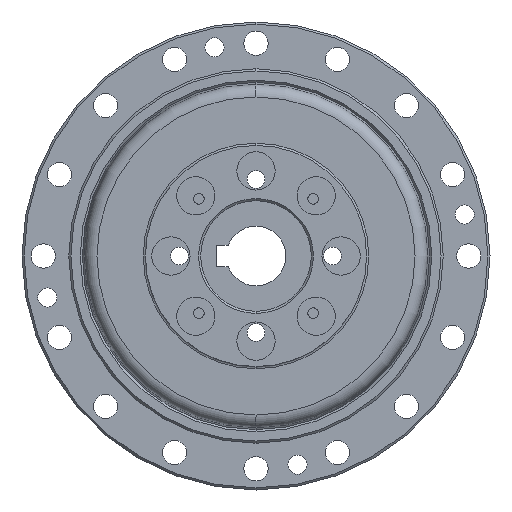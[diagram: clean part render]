
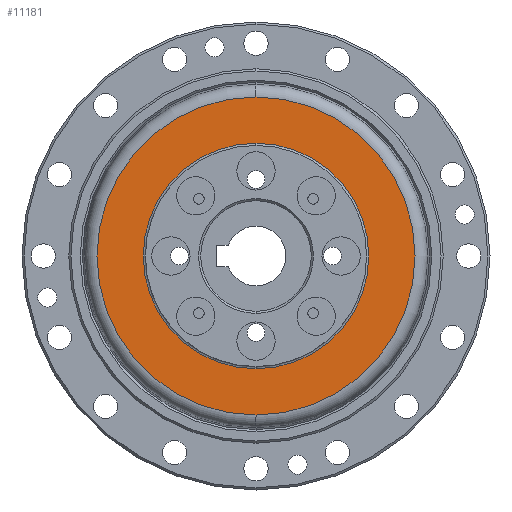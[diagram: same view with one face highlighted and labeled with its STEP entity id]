
A CAD part, left-side view. The second image highlights one B-rep face of the part: STEP entity #11181.
In plain terms, the highlighted planar face has unit normal (-1, 0, 0).
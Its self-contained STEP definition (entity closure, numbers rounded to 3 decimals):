
#205 = ORIENTED_EDGE ( 'NONE', *, *, #12827, .T. ) ;
#923 = FACE_BOUND ( 'NONE', #9168, .T. ) ;
#997 = EDGE_CURVE ( 'NONE', #8743, #7963, #7222, .T. ) ;
#1861 = CARTESIAN_POINT ( 'NONE',  ( 23.486, 0., 0. ) ) ;
#1994 = DIRECTION ( 'NONE',  ( 0., 0., 1. ) ) ;
#2104 = CIRCLE ( 'NONE', #5947, 37.373 ) ;
#2497 = VERTEX_POINT ( 'NONE', #9676 ) ;
#2941 = DIRECTION ( 'NONE',  ( 0., 0., -1. ) ) ;
#3766 = AXIS2_PLACEMENT_3D ( 'NONE', #6251, #8392, #1994 ) ;
#4031 = EDGE_CURVE ( 'NONE', #2497, #10513, #4860, .T. ) ;
#4245 = ORIENTED_EDGE ( 'NONE', *, *, #8932, .F. ) ;
#4597 = CARTESIAN_POINT ( 'NONE',  ( 23.486, 0., 0. ) ) ;
#4634 = CARTESIAN_POINT ( 'NONE',  ( 23.486, 0., 26.5 ) ) ;
#4759 = FACE_OUTER_BOUND ( 'NONE', #9675, .T. ) ;
#4860 = CIRCLE ( 'NONE', #8758, 37.373 ) ;
#5096 = ORIENTED_EDGE ( 'NONE', *, *, #4031, .F. ) ;
#5381 = DIRECTION ( 'NONE',  ( 1., 0., 0. ) ) ;
#5685 = DIRECTION ( 'NONE',  ( 0., 0., -1. ) ) ;
#5947 = AXIS2_PLACEMENT_3D ( 'NONE', #4597, #12040, #5685 ) ;
#6049 = CARTESIAN_POINT ( 'NONE',  ( 23.486, 0., 0. ) ) ;
#6193 = AXIS2_PLACEMENT_3D ( 'NONE', #6049, #13489, #7119 ) ;
#6251 = CARTESIAN_POINT ( 'NONE',  ( 23.486, 26.5, 0. ) ) ;
#7119 = DIRECTION ( 'NONE',  ( 0., 0., -1. ) ) ;
#7222 = CIRCLE ( 'NONE', #10158, 26.5 ) ;
#7963 = VERTEX_POINT ( 'NONE', #8518 ) ;
#8322 = CARTESIAN_POINT ( 'NONE',  ( 23.486, 0., 37.373 ) ) ;
#8392 = DIRECTION ( 'NONE',  ( -1., 0., 0. ) ) ;
#8518 = CARTESIAN_POINT ( 'NONE',  ( 23.486, 0., -26.5 ) ) ;
#8743 = VERTEX_POINT ( 'NONE', #4634 ) ;
#8758 = AXIS2_PLACEMENT_3D ( 'NONE', #11734, #5381, #12812 ) ;
#8932 = EDGE_CURVE ( 'NONE', #10513, #2497, #2104, .T. ) ;
#9168 = EDGE_LOOP ( 'NONE', ( #205, #9350 ) ) ;
#9320 = DIRECTION ( 'NONE',  ( 1., 0., 0. ) ) ;
#9350 = ORIENTED_EDGE ( 'NONE', *, *, #997, .T. ) ;
#9675 = EDGE_LOOP ( 'NONE', ( #5096, #4245 ) ) ;
#9676 = CARTESIAN_POINT ( 'NONE',  ( 23.486, 0., -37.373 ) ) ;
#10158 = AXIS2_PLACEMENT_3D ( 'NONE', #1861, #9320, #2941 ) ;
#10483 = PLANE ( 'NONE',  #3766 ) ;
#10513 = VERTEX_POINT ( 'NONE', #8322 ) ;
#11181 = ADVANCED_FACE ( 'NONE', ( #923, #4759 ), #10483, .T. ) ;
#11198 = CIRCLE ( 'NONE', #6193, 26.5 ) ;
#11734 = CARTESIAN_POINT ( 'NONE',  ( 23.486, 0., 0. ) ) ;
#12040 = DIRECTION ( 'NONE',  ( 1., 0., 0. ) ) ;
#12812 = DIRECTION ( 'NONE',  ( 0., 0., -1. ) ) ;
#12827 = EDGE_CURVE ( 'NONE', #7963, #8743, #11198, .T. ) ;
#13489 = DIRECTION ( 'NONE',  ( 1., 0., 0. ) ) ;
